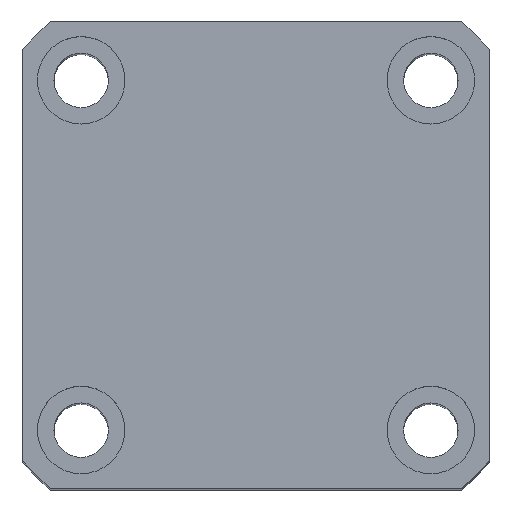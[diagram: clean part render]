
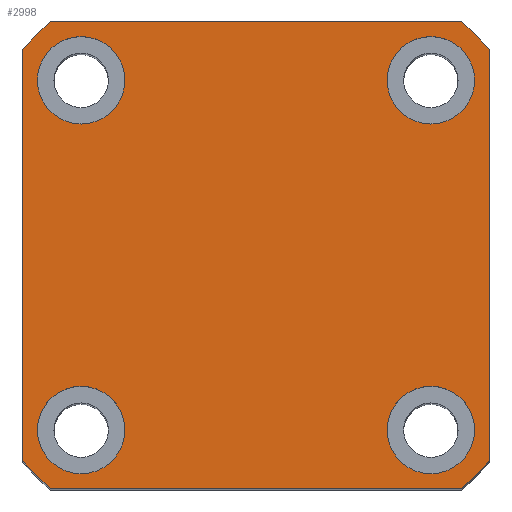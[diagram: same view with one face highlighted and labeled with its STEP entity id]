
A CAD part, top view. The second image highlights one B-rep face of the part: STEP entity #2998.
In plain terms, the highlighted planar face has unit normal (0, 0, 1) as drawn and (1, 0, 0) by its records, which use the part's own axes.
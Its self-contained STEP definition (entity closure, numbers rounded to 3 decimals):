
#106 = AXIS2_PLACEMENT_3D ( 'NONE', #371, #4737, #1014 ) ;
#213 = AXIS2_PLACEMENT_3D ( 'NONE', #936, #7624, #532 ) ;
#226 = EDGE_CURVE ( 'NONE', #2454, #6433, #7771, .T. ) ;
#334 = CARTESIAN_POINT ( 'NONE',  ( 100., -21.166, -24. ) ) ;
#361 = VECTOR ( 'NONE', #1643, 1000. ) ;
#370 = VECTOR ( 'NONE', #7897, 1000. ) ;
#371 = CARTESIAN_POINT ( 'NONE',  ( 100., -18., -18. ) ) ;
#379 = EDGE_CURVE ( 'NONE', #6433, #2454, #1179, .T. ) ;
#382 = CIRCLE ( 'NONE', #2744, 32. ) ;
#426 = CARTESIAN_POINT ( 'NONE',  ( 100., 18., 18. ) ) ;
#436 = CIRCLE ( 'NONE', #3052, 32. ) ;
#489 = AXIS2_PLACEMENT_3D ( 'NONE', #2269, #2314, #2367 ) ;
#532 = DIRECTION ( 'NONE',  ( 0., 0., -1. ) ) ;
#551 = FACE_BOUND ( 'NONE', #1153, .T. ) ;
#567 = LINE ( 'NONE', #7849, #370 ) ;
#714 = EDGE_CURVE ( 'NONE', #7671, #6310, #382, .T. ) ;
#850 = CARTESIAN_POINT ( 'NONE',  ( 100., 24., 21.166 ) ) ;
#871 = CIRCLE ( 'NONE', #6999, 4.5 ) ;
#936 = CARTESIAN_POINT ( 'NONE',  ( 100., 18., -18. ) ) ;
#1008 = VERTEX_POINT ( 'NONE', #3248 ) ;
#1014 = DIRECTION ( 'NONE',  ( 0., 0., -1. ) ) ;
#1015 = CARTESIAN_POINT ( 'NONE',  ( 100., -24., 24. ) ) ;
#1036 = EDGE_CURVE ( 'NONE', #4394, #7083, #5051, .T. ) ;
#1076 = DIRECTION ( 'NONE',  ( 0., 0., -1. ) ) ;
#1142 = VECTOR ( 'NONE', #4739, 1000. ) ;
#1153 = EDGE_LOOP ( 'NONE', ( #8048, #6195 ) ) ;
#1179 = CIRCLE ( 'NONE', #213, 4.5 ) ;
#1223 = EDGE_CURVE ( 'NONE', #7863, #1355, #2237, .T. ) ;
#1249 = CIRCLE ( 'NONE', #3617, 32. ) ;
#1286 = AXIS2_PLACEMENT_3D ( 'NONE', #7171, #3478, #7807 ) ;
#1293 = EDGE_CURVE ( 'NONE', #2599, #7671, #567, .T. ) ;
#1355 = VERTEX_POINT ( 'NONE', #4107 ) ;
#1375 = EDGE_LOOP ( 'NONE', ( #5990, #4864 ) ) ;
#1432 = DIRECTION ( 'NONE',  ( 1., 0., 0. ) ) ;
#1441 = EDGE_LOOP ( 'NONE', ( #4580, #2922 ) ) ;
#1643 = DIRECTION ( 'NONE',  ( 0., 1., 0. ) ) ;
#1661 = EDGE_CURVE ( 'NONE', #1355, #7863, #871, .T. ) ;
#1853 = VERTEX_POINT ( 'NONE', #6800 ) ;
#2019 = CIRCLE ( 'NONE', #6526, 4.5 ) ;
#2030 = FACE_OUTER_BOUND ( 'NONE', #5576, .T. ) ;
#2056 = ORIENTED_EDGE ( 'NONE', *, *, #3458, .T. ) ;
#2237 = CIRCLE ( 'NONE', #6731, 4.5 ) ;
#2269 = CARTESIAN_POINT ( 'NONE',  ( 100., 0., 0. ) ) ;
#2280 = CARTESIAN_POINT ( 'NONE',  ( 100., -21.166, 24. ) ) ;
#2311 = VECTOR ( 'NONE', #2547, 1000. ) ;
#2314 = DIRECTION ( 'NONE',  ( 1., 0., 0. ) ) ;
#2367 = DIRECTION ( 'NONE',  ( 0., 0., -1. ) ) ;
#2454 = VERTEX_POINT ( 'NONE', #3627 ) ;
#2513 = CARTESIAN_POINT ( 'NONE',  ( 100., -18., -18. ) ) ;
#2528 = VERTEX_POINT ( 'NONE', #3849 ) ;
#2547 = DIRECTION ( 'NONE',  ( 0., -1., 0. ) ) ;
#2599 = VERTEX_POINT ( 'NONE', #6465 ) ;
#2627 = EDGE_CURVE ( 'NONE', #5940, #2599, #1249, .T. ) ;
#2650 = PLANE ( 'NONE',  #7613 ) ;
#2663 = VERTEX_POINT ( 'NONE', #5331 ) ;
#2696 = EDGE_LOOP ( 'NONE', ( #4969, #3326 ) ) ;
#2744 = AXIS2_PLACEMENT_3D ( 'NONE', #3041, #3065, #3240 ) ;
#2881 = CIRCLE ( 'NONE', #106, 4.5 ) ;
#2922 = ORIENTED_EDGE ( 'NONE', *, *, #226, .F. ) ;
#2998 = ADVANCED_FACE ( 'NONE', ( #5315, #551, #5497, #3662, #2030 ), #2650, .T. ) ;
#3014 = ORIENTED_EDGE ( 'NONE', *, *, #2627, .T. ) ;
#3041 = CARTESIAN_POINT ( 'NONE',  ( 100., 0., 0. ) ) ;
#3052 = AXIS2_PLACEMENT_3D ( 'NONE', #7302, #3610, #7941 ) ;
#3065 = DIRECTION ( 'NONE',  ( 1., 0., 0. ) ) ;
#3131 = CARTESIAN_POINT ( 'NONE',  ( 100., 18., -18. ) ) ;
#3138 = DIRECTION ( 'NONE',  ( 0., 0., -1. ) ) ;
#3240 = DIRECTION ( 'NONE',  ( 0., 0., -1. ) ) ;
#3248 = CARTESIAN_POINT ( 'NONE',  ( 100., -18., -13.5 ) ) ;
#3326 = ORIENTED_EDGE ( 'NONE', *, *, #7384, .F. ) ;
#3458 = EDGE_CURVE ( 'NONE', #7083, #6139, #7317, .T. ) ;
#3463 = DIRECTION ( 'NONE',  ( 1., 0., 0. ) ) ;
#3476 = CIRCLE ( 'NONE', #1286, 4.5 ) ;
#3478 = DIRECTION ( 'NONE',  ( 1., 0., 0. ) ) ;
#3610 = DIRECTION ( 'NONE',  ( 1., 0., 0. ) ) ;
#3617 = AXIS2_PLACEMENT_3D ( 'NONE', #7158, #3463, #7800 ) ;
#3627 = CARTESIAN_POINT ( 'NONE',  ( 100., 18., -13.5 ) ) ;
#3662 = FACE_BOUND ( 'NONE', #1375, .T. ) ;
#3691 = ORIENTED_EDGE ( 'NONE', *, *, #1036, .T. ) ;
#3849 = CARTESIAN_POINT ( 'NONE',  ( 100., 18., 13.5 ) ) ;
#4067 = LINE ( 'NONE', #5929, #361 ) ;
#4107 = CARTESIAN_POINT ( 'NONE',  ( 100., -18., 13.5 ) ) ;
#4125 = CARTESIAN_POINT ( 'NONE',  ( 100., -18., 18. ) ) ;
#4233 = CARTESIAN_POINT ( 'NONE',  ( 100., -18., 22.5 ) ) ;
#4266 = DIRECTION ( 'NONE',  ( 1., 0., 0. ) ) ;
#4394 = VERTEX_POINT ( 'NONE', #2280 ) ;
#4557 = AXIS2_PLACEMENT_3D ( 'NONE', #3131, #6928, #7658 ) ;
#4580 = ORIENTED_EDGE ( 'NONE', *, *, #379, .F. ) ;
#4591 = CARTESIAN_POINT ( 'NONE',  ( 100., -24., 21.166 ) ) ;
#4706 = CARTESIAN_POINT ( 'NONE',  ( 100., -24., -21.166 ) ) ;
#4717 = EDGE_CURVE ( 'NONE', #2528, #1853, #7070, .T. ) ;
#4737 = DIRECTION ( 'NONE',  ( 1., 0., 0. ) ) ;
#4739 = DIRECTION ( 'NONE',  ( 0., 0., -1. ) ) ;
#4791 = CARTESIAN_POINT ( 'NONE',  ( 100., 21.166, 24. ) ) ;
#4801 = DIRECTION ( 'NONE',  ( 1., 0., 0. ) ) ;
#4864 = ORIENTED_EDGE ( 'NONE', *, *, #6250, .F. ) ;
#4969 = ORIENTED_EDGE ( 'NONE', *, *, #7719, .F. ) ;
#4978 = DIRECTION ( 'NONE',  ( 0., 0., -1. ) ) ;
#5017 = CARTESIAN_POINT ( 'NONE',  ( 100., 24., 24. ) ) ;
#5051 = CIRCLE ( 'NONE', #489, 32. ) ;
#5141 = CARTESIAN_POINT ( 'NONE',  ( 100., 0., 0. ) ) ;
#5190 = EDGE_CURVE ( 'NONE', #6238, #5940, #4067, .T. ) ;
#5315 = FACE_BOUND ( 'NONE', #2696, .T. ) ;
#5331 = CARTESIAN_POINT ( 'NONE',  ( 100., -18., -22.5 ) ) ;
#5497 = FACE_BOUND ( 'NONE', #1441, .T. ) ;
#5569 = EDGE_CURVE ( 'NONE', #6310, #4394, #5589, .T. ) ;
#5576 = EDGE_LOOP ( 'NONE', ( #6293, #3014, #5887, #7347, #7765, #3691, #2056, #6398 ) ) ;
#5589 = LINE ( 'NONE', #5017, #2311 ) ;
#5615 = AXIS2_PLACEMENT_3D ( 'NONE', #426, #4801, #1076 ) ;
#5734 = DIRECTION ( 'NONE',  ( 0., 0., -1. ) ) ;
#5887 = ORIENTED_EDGE ( 'NONE', *, *, #1293, .T. ) ;
#5929 = CARTESIAN_POINT ( 'NONE',  ( 100., 24., -24. ) ) ;
#5940 = VERTEX_POINT ( 'NONE', #7674 ) ;
#5990 = ORIENTED_EDGE ( 'NONE', *, *, #4717, .F. ) ;
#6103 = CARTESIAN_POINT ( 'NONE',  ( 100., 18., -22.5 ) ) ;
#6139 = VERTEX_POINT ( 'NONE', #4706 ) ;
#6195 = ORIENTED_EDGE ( 'NONE', *, *, #1223, .F. ) ;
#6238 = VERTEX_POINT ( 'NONE', #334 ) ;
#6250 = EDGE_CURVE ( 'NONE', #1853, #2528, #3476, .T. ) ;
#6293 = ORIENTED_EDGE ( 'NONE', *, *, #5190, .T. ) ;
#6310 = VERTEX_POINT ( 'NONE', #4791 ) ;
#6398 = ORIENTED_EDGE ( 'NONE', *, *, #7839, .T. ) ;
#6433 = VERTEX_POINT ( 'NONE', #6103 ) ;
#6465 = CARTESIAN_POINT ( 'NONE',  ( 100., 24., -21.166 ) ) ;
#6526 = AXIS2_PLACEMENT_3D ( 'NONE', #2513, #6843, #3138 ) ;
#6731 = AXIS2_PLACEMENT_3D ( 'NONE', #7304, #7409, #7469 ) ;
#6800 = CARTESIAN_POINT ( 'NONE',  ( 100., 18., 22.5 ) ) ;
#6843 = DIRECTION ( 'NONE',  ( 1., 0., 0. ) ) ;
#6928 = DIRECTION ( 'NONE',  ( 1., 0., 0. ) ) ;
#6999 = AXIS2_PLACEMENT_3D ( 'NONE', #4125, #4266, #4978 ) ;
#7070 = CIRCLE ( 'NONE', #5615, 4.5 ) ;
#7083 = VERTEX_POINT ( 'NONE', #4591 ) ;
#7158 = CARTESIAN_POINT ( 'NONE',  ( 100., 0., 0. ) ) ;
#7171 = CARTESIAN_POINT ( 'NONE',  ( 100., 18., 18. ) ) ;
#7302 = CARTESIAN_POINT ( 'NONE',  ( 100., 0., 0. ) ) ;
#7304 = CARTESIAN_POINT ( 'NONE',  ( 100., -18., 18. ) ) ;
#7317 = LINE ( 'NONE', #1015, #1142 ) ;
#7347 = ORIENTED_EDGE ( 'NONE', *, *, #714, .T. ) ;
#7384 = EDGE_CURVE ( 'NONE', #1008, #2663, #2019, .T. ) ;
#7409 = DIRECTION ( 'NONE',  ( 1., 0., 0. ) ) ;
#7469 = DIRECTION ( 'NONE',  ( 0., 0., -1. ) ) ;
#7613 = AXIS2_PLACEMENT_3D ( 'NONE', #5141, #1432, #5734 ) ;
#7624 = DIRECTION ( 'NONE',  ( 1., 0., 0. ) ) ;
#7658 = DIRECTION ( 'NONE',  ( 0., 0., -1. ) ) ;
#7671 = VERTEX_POINT ( 'NONE', #850 ) ;
#7674 = CARTESIAN_POINT ( 'NONE',  ( 100., 21.166, -24. ) ) ;
#7719 = EDGE_CURVE ( 'NONE', #2663, #1008, #2881, .T. ) ;
#7765 = ORIENTED_EDGE ( 'NONE', *, *, #5569, .T. ) ;
#7771 = CIRCLE ( 'NONE', #4557, 4.5 ) ;
#7800 = DIRECTION ( 'NONE',  ( 0., 0., -1. ) ) ;
#7807 = DIRECTION ( 'NONE',  ( 0., 0., -1. ) ) ;
#7839 = EDGE_CURVE ( 'NONE', #6139, #6238, #436, .T. ) ;
#7849 = CARTESIAN_POINT ( 'NONE',  ( 100., 24., 24. ) ) ;
#7863 = VERTEX_POINT ( 'NONE', #4233 ) ;
#7897 = DIRECTION ( 'NONE',  ( 0., 0., 1. ) ) ;
#7941 = DIRECTION ( 'NONE',  ( 0., 0., -1. ) ) ;
#8048 = ORIENTED_EDGE ( 'NONE', *, *, #1661, .F. ) ;
